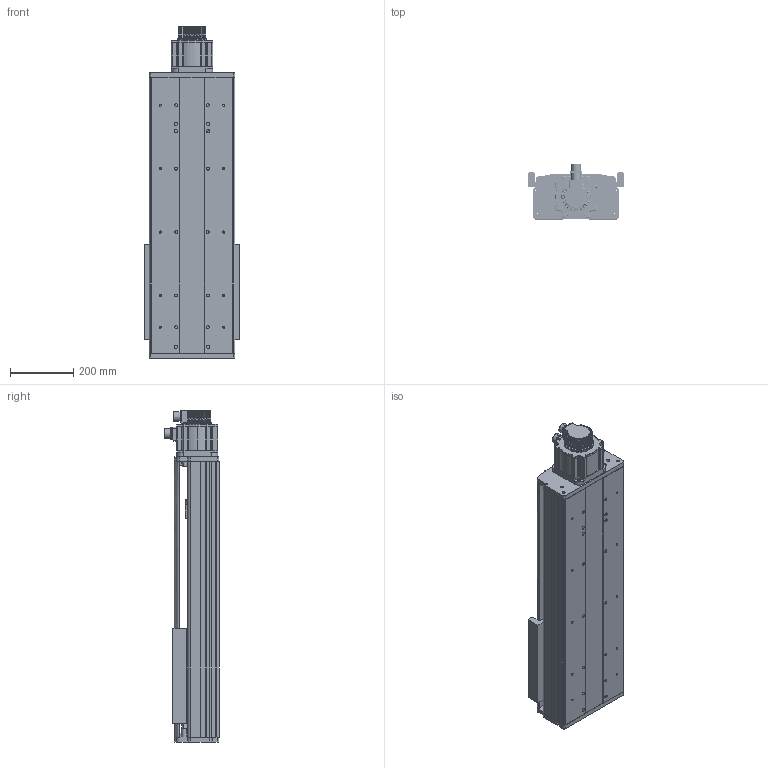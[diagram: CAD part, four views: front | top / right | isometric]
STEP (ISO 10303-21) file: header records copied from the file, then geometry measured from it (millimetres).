
FILE_DESCRIPTION (( 'STEP AP203' ), '1' );
FILE_NAME ('LT270-S4010-S500-P1.5kw.STEP', '2022-08-29T00:21:34', ( '' ), ( '' ), 'SwSTEP 2.0', 'SolidWorks 2020', '' );
FILE_SCHEMA (( 'CONFIG_CONTROL_DESIGN' ));
Length unit declared in the file: millimetre
Products named in the file (17): MS1H3-85B15CD-T331Z 侜督萇儂1葩秶; SFU4010佪裝蹟譫; 滅袉蝶-湮; 粣創0604; BK300604; LT270S-40佪裝嘐隅釱; LT270-S4010-S500-P1.5kw; LT270S-40賑怢; LT270S-綴啣; S270覜茼ん674; LT270S-裔啣盓傅沭; LT270S-40萵盓傅釱; LT270S-P1.5KW前板_标准; LT270S-40覜茼え; LT270S-倰第-S500; LT270S-阻尼圈安装座; LT270S-裔啣
Assembly tree (23 placements, depth 2):
  LT270-S4010-S500-P1.5kw
    LT270S-40佪裝嘐隅釱
    S270覜茼ん674  x3
    BK300604
    LT270S-40萵盓傅釱
    粣創0604
    LT270S-倰第-S500
    SFU4010佪裝蹟譫
    滅袉蝶-湮  x4
    LT270S-綴啣
    LT270S-P1.5KW前板_标准
    LT270S-裔啣盓傅沭  x2
    LT270S-裔啣
    LT270S-40賑怢
    MS1H3-85B15CD-T331Z 侜督萇儂1葩秶
    LT270S-40覜茼え
    LT270S-阻尼圈安装座  x2
Bounding box: 300 x 172.5 x 1046.7 mm (x, y, z)
Volume: 15997345.6 mm3; surface area: 2878842.9 mm2
Topology: 67 solids, 70 shells, 2983 faces, 7716 edges, 4678 vertices
Faces by surface type: cylinder 1407, plane 826, bspline 498, cone 252
Entity records: 117690 total; most frequent: CARTESIAN_POINT 50191, ORIENTED_EDGE 13770, DIRECTION 13694, EDGE_CURVE 6885, AXIS2_PLACEMENT_3D 5311, VERTEX_POINT 4378, EDGE_LOOP 3333, LINE 3072
